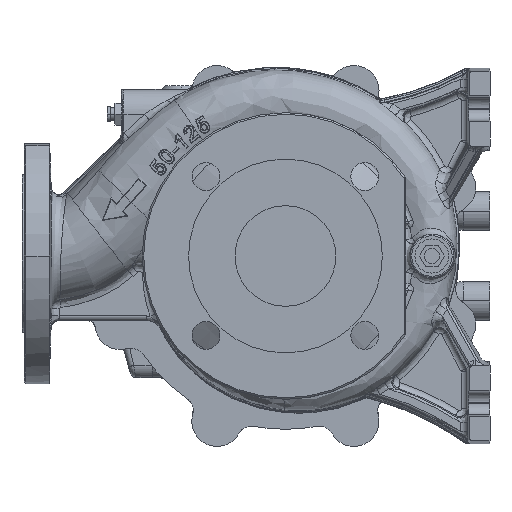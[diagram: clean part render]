
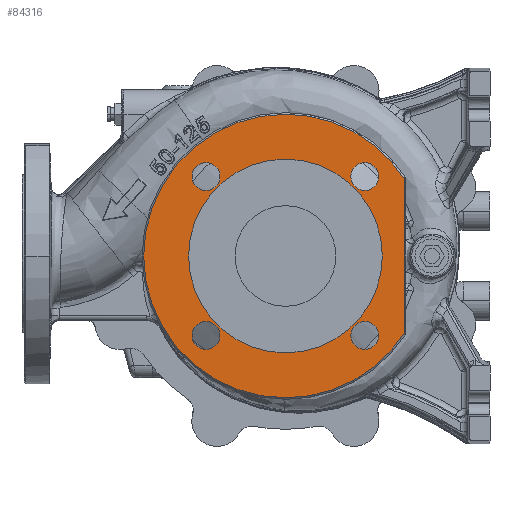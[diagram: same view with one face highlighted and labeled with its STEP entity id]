
A CAD part, left-side view. The second image highlights one B-rep face of the part: STEP entity #84316.
In plain terms, the highlighted planar face has unit normal (-1, 0, 0).
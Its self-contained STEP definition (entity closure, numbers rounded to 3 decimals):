
#859 = ORIENTED_EDGE ( 'NONE', *, *, #87295, .F. ) ;
#1255 = DIRECTION ( 'NONE',  ( -1., 0., 0. ) ) ;
#2761 = CARTESIAN_POINT ( 'NONE',  ( -279.764, 139.201, 0. ) ) ;
#4674 = VERTEX_POINT ( 'NONE', #145453 ) ;
#5316 = DIRECTION ( 'NONE',  ( -1., 0., 0. ) ) ;
#9936 = CIRCLE ( 'NONE', #66610, 62.5 ) ;
#11565 = EDGE_LOOP ( 'NONE', ( #98386, #80192 ) ) ;
#11940 = DIRECTION ( 'NONE',  ( -1., 0., 0. ) ) ;
#13258 = AXIS2_PLACEMENT_3D ( 'NONE', #147970, #138715, #136426 ) ;
#13343 = CIRCLE ( 'NONE', #129098, 62.5 ) ;
#13794 = CARTESIAN_POINT ( 'NONE',  ( -279.764, 94.3, 57.629 ) ) ;
#17130 = ORIENTED_EDGE ( 'NONE', *, *, #50093, .F. ) ;
#17475 = CARTESIAN_POINT ( 'NONE',  ( -279.764, 139.201, 0. ) ) ;
#17543 = CIRCLE ( 'NONE', #118555, 9. ) ;
#19156 = EDGE_CURVE ( 'NONE', #89504, #27017, #17543, .T. ) ;
#19450 = CARTESIAN_POINT ( 'NONE',  ( -279.764, 139.201, 0. ) ) ;
#19538 = ORIENTED_EDGE ( 'NONE', *, *, #136782, .F. ) ;
#21138 = DIRECTION ( 'NONE',  ( 0., 0., 1. ) ) ;
#21980 = CARTESIAN_POINT ( 'NONE',  ( -279.764, 62.644, 0. ) ) ;
#23002 = EDGE_LOOP ( 'NONE', ( #143265, #83393 ) ) ;
#23043 = CARTESIAN_POINT ( 'NONE',  ( -279.764, 62.644, 50.113 ) ) ;
#23055 = CARTESIAN_POINT ( 'NONE',  ( -279.764, 81.572, 44.901 ) ) ;
#23561 = DIRECTION ( 'NONE',  ( -1., 0., 0. ) ) ;
#23688 = CIRCLE ( 'NONE', #146680, 9. ) ;
#25198 = AXIS2_PLACEMENT_3D ( 'NONE', #105212, #11940, #141438 ) ;
#27017 = VERTEX_POINT ( 'NONE', #13794 ) ;
#27498 = AXIS2_PLACEMENT_3D ( 'NONE', #19450, #127298, #33305 ) ;
#28392 = AXIS2_PLACEMENT_3D ( 'NONE', #33624, #23561, #58243 ) ;
#29857 = CIRCLE ( 'NONE', #115946, 9. ) ;
#30307 = EDGE_LOOP ( 'NONE', ( #41157, #19538 ) ) ;
#31971 = CARTESIAN_POINT ( 'NONE',  ( -279.764, 87.936, -51.265 ) ) ;
#32246 = PLANE ( 'NONE',  #78409 ) ;
#33305 = DIRECTION ( 'NONE',  ( 0., 0., 1. ) ) ;
#33624 = CARTESIAN_POINT ( 'NONE',  ( -279.764, 139.201, 0. ) ) ;
#34949 = VERTEX_POINT ( 'NONE', #40869 ) ;
#35113 = EDGE_CURVE ( 'NONE', #51606, #113326, #13343, .T. ) ;
#37502 = DIRECTION ( 'NONE',  ( 0., 0., 1. ) ) ;
#39634 = VERTEX_POINT ( 'NONE', #136760 ) ;
#40498 = DIRECTION ( 'NONE',  ( -1., 0., 0. ) ) ;
#40773 = DIRECTION ( 'NONE',  ( 0., 0., 1. ) ) ;
#40869 = CARTESIAN_POINT ( 'NONE',  ( -279.764, 62.644, -50.113 ) ) ;
#41042 = CIRCLE ( 'NONE', #82875, 9. ) ;
#41157 = ORIENTED_EDGE ( 'NONE', *, *, #90797, .F. ) ;
#42541 = VERTEX_POINT ( 'NONE', #57372 ) ;
#42571 = CARTESIAN_POINT ( 'NONE',  ( -279.764, 139.201, -62.5 ) ) ;
#42762 = CIRCLE ( 'NONE', #13258, 91.5 ) ;
#44741 = CARTESIAN_POINT ( 'NONE',  ( -279.764, 87.936, -51.265 ) ) ;
#48274 = DIRECTION ( 'NONE',  ( 0., 0., 1. ) ) ;
#50093 = EDGE_CURVE ( 'NONE', #117255, #34949, #91397, .T. ) ;
#51606 = VERTEX_POINT ( 'NONE', #42571 ) ;
#51924 = CARTESIAN_POINT ( 'NONE',  ( -279.764, 190.466, 51.265 ) ) ;
#53015 = CIRCLE ( 'NONE', #28392, 91.5 ) ;
#55099 = CARTESIAN_POINT ( 'NONE',  ( -279.764, 184.102, -57.629 ) ) ;
#57372 = CARTESIAN_POINT ( 'NONE',  ( -279.764, 184.102, 57.629 ) ) ;
#58243 = DIRECTION ( 'NONE',  ( 0., 0., 1. ) ) ;
#60075 = DIRECTION ( 'NONE',  ( 0., 0., 1. ) ) ;
#60081 = CARTESIAN_POINT ( 'NONE',  ( -279.764, 81.572, -44.901 ) ) ;
#60786 = VERTEX_POINT ( 'NONE', #55099 ) ;
#62727 = VERTEX_POINT ( 'NONE', #118788 ) ;
#64561 = AXIS2_PLACEMENT_3D ( 'NONE', #134043, #5316, #135584 ) ;
#65293 = DIRECTION ( 'NONE',  ( -1., 0., 0. ) ) ;
#66171 = FACE_BOUND ( 'NONE', #23002, .T. ) ;
#66450 = VERTEX_POINT ( 'NONE', #70799 ) ;
#66610 = AXIS2_PLACEMENT_3D ( 'NONE', #17475, #65293, #87641 ) ;
#70799 = CARTESIAN_POINT ( 'NONE',  ( -279.764, 196.83, -44.901 ) ) ;
#73625 = EDGE_CURVE ( 'NONE', #4674, #103909, #99076, .T. ) ;
#75070 = DIRECTION ( 'NONE',  ( 0., 0., 1. ) ) ;
#75251 = EDGE_CURVE ( 'NONE', #39634, #62727, #42762, .T. ) ;
#76302 = EDGE_LOOP ( 'NONE', ( #17130, #124142, #80204, #148077 ) ) ;
#77109 = ORIENTED_EDGE ( 'NONE', *, *, #19156, .F. ) ;
#78409 = AXIS2_PLACEMENT_3D ( 'NONE', #91587, #136305, #79255 ) ;
#79255 = DIRECTION ( 'NONE',  ( 0., 1., 0. ) ) ;
#80192 = ORIENTED_EDGE ( 'NONE', *, *, #73625, .F. ) ;
#80204 = ORIENTED_EDGE ( 'NONE', *, *, #75251, .T. ) ;
#82875 = AXIS2_PLACEMENT_3D ( 'NONE', #51924, #98957, #75070 ) ;
#83393 = ORIENTED_EDGE ( 'NONE', *, *, #151921, .F. ) ;
#84316 = ADVANCED_FACE ( 'NONE', ( #127007, #66171, #137838, #113157, #101633, #90065 ), #32246, .F. ) ;
#85152 = CIRCLE ( 'NONE', #129169, 9. ) ;
#87295 = EDGE_CURVE ( 'NONE', #113326, #51606, #9936, .T. ) ;
#87641 = DIRECTION ( 'NONE',  ( 0., 0., 1. ) ) ;
#89504 = VERTEX_POINT ( 'NONE', #23055 ) ;
#90065 = FACE_BOUND ( 'NONE', #105721, .T. ) ;
#90797 = EDGE_CURVE ( 'NONE', #60786, #66450, #29857, .T. ) ;
#91047 = CARTESIAN_POINT ( 'NONE',  ( -279.764, 87.936, 51.265 ) ) ;
#91397 = LINE ( 'NONE', #21980, #151513 ) ;
#91587 = CARTESIAN_POINT ( 'NONE',  ( -279.764, 139.201, 0. ) ) ;
#93733 = EDGE_CURVE ( 'NONE', #62727, #34949, #93983, .T. ) ;
#93983 = CIRCLE ( 'NONE', #27498, 91.5 ) ;
#94199 = CIRCLE ( 'NONE', #25198, 9. ) ;
#98386 = ORIENTED_EDGE ( 'NONE', *, *, #99671, .F. ) ;
#98957 = DIRECTION ( 'NONE',  ( -1., 0., 0. ) ) ;
#99076 = CIRCLE ( 'NONE', #126167, 9. ) ;
#99671 = EDGE_CURVE ( 'NONE', #103909, #4674, #85152, .T. ) ;
#101633 = FACE_BOUND ( 'NONE', #11565, .T. ) ;
#101845 = DIRECTION ( 'NONE',  ( 0., 0., 1. ) ) ;
#103909 = VERTEX_POINT ( 'NONE', #60081 ) ;
#105212 = CARTESIAN_POINT ( 'NONE',  ( -279.764, 190.466, 51.265 ) ) ;
#105721 = EDGE_LOOP ( 'NONE', ( #111446, #77109 ) ) ;
#106831 = CARTESIAN_POINT ( 'NONE',  ( -279.764, 87.936, 51.265 ) ) ;
#111446 = ORIENTED_EDGE ( 'NONE', *, *, #141014, .F. ) ;
#113157 = FACE_OUTER_BOUND ( 'NONE', #76302, .T. ) ;
#113326 = VERTEX_POINT ( 'NONE', #150481 ) ;
#115082 = EDGE_CURVE ( 'NONE', #151631, #42541, #94199, .T. ) ;
#115946 = AXIS2_PLACEMENT_3D ( 'NONE', #124002, #123224, #40773 ) ;
#117139 = DIRECTION ( 'NONE',  ( -1., 0., 0. ) ) ;
#117255 = VERTEX_POINT ( 'NONE', #23043 ) ;
#118555 = AXIS2_PLACEMENT_3D ( 'NONE', #106831, #1255, #48274 ) ;
#118788 = CARTESIAN_POINT ( 'NONE',  ( -279.764, 139.201, -91.5 ) ) ;
#123224 = DIRECTION ( 'NONE',  ( -1., 0., 0. ) ) ;
#124002 = CARTESIAN_POINT ( 'NONE',  ( -279.764, 190.466, -51.265 ) ) ;
#124142 = ORIENTED_EDGE ( 'NONE', *, *, #149860, .T. ) ;
#126167 = AXIS2_PLACEMENT_3D ( 'NONE', #31971, #148341, #21138 ) ;
#127007 = FACE_BOUND ( 'NONE', #30307, .T. ) ;
#127298 = DIRECTION ( 'NONE',  ( -1., 0., 0. ) ) ;
#129098 = AXIS2_PLACEMENT_3D ( 'NONE', #2761, #40498, #37502 ) ;
#129169 = AXIS2_PLACEMENT_3D ( 'NONE', #44741, #117139, #60075 ) ;
#130476 = ORIENTED_EDGE ( 'NONE', *, *, #35113, .F. ) ;
#134043 = CARTESIAN_POINT ( 'NONE',  ( -279.764, 190.466, -51.265 ) ) ;
#135584 = DIRECTION ( 'NONE',  ( 0., 0., 1. ) ) ;
#135868 = CIRCLE ( 'NONE', #64561, 9. ) ;
#136305 = DIRECTION ( 'NONE',  ( 1., 0., 0. ) ) ;
#136426 = DIRECTION ( 'NONE',  ( 0., 0., 1. ) ) ;
#136760 = CARTESIAN_POINT ( 'NONE',  ( -279.764, 139.201, 91.5 ) ) ;
#136782 = EDGE_CURVE ( 'NONE', #66450, #60786, #135868, .T. ) ;
#137838 = FACE_BOUND ( 'NONE', #141206, .T. ) ;
#137939 = CARTESIAN_POINT ( 'NONE',  ( -279.764, 196.83, 44.901 ) ) ;
#138412 = DIRECTION ( 'NONE',  ( 0., 0., -1. ) ) ;
#138715 = DIRECTION ( 'NONE',  ( -1., 0., 0. ) ) ;
#141014 = EDGE_CURVE ( 'NONE', #27017, #89504, #23688, .T. ) ;
#141206 = EDGE_LOOP ( 'NONE', ( #130476, #859 ) ) ;
#141438 = DIRECTION ( 'NONE',  ( 0., 0., 1. ) ) ;
#143265 = ORIENTED_EDGE ( 'NONE', *, *, #115082, .F. ) ;
#145453 = CARTESIAN_POINT ( 'NONE',  ( -279.764, 94.3, -57.629 ) ) ;
#146539 = DIRECTION ( 'NONE',  ( -1., 0., 0. ) ) ;
#146680 = AXIS2_PLACEMENT_3D ( 'NONE', #91047, #146539, #101845 ) ;
#147970 = CARTESIAN_POINT ( 'NONE',  ( -279.764, 139.201, 0. ) ) ;
#148077 = ORIENTED_EDGE ( 'NONE', *, *, #93733, .T. ) ;
#148341 = DIRECTION ( 'NONE',  ( -1., 0., 0. ) ) ;
#149860 = EDGE_CURVE ( 'NONE', #117255, #39634, #53015, .T. ) ;
#150481 = CARTESIAN_POINT ( 'NONE',  ( -279.764, 139.201, 62.5 ) ) ;
#151513 = VECTOR ( 'NONE', #138412, 1000. ) ;
#151631 = VERTEX_POINT ( 'NONE', #137939 ) ;
#151921 = EDGE_CURVE ( 'NONE', #42541, #151631, #41042, .T. ) ;
